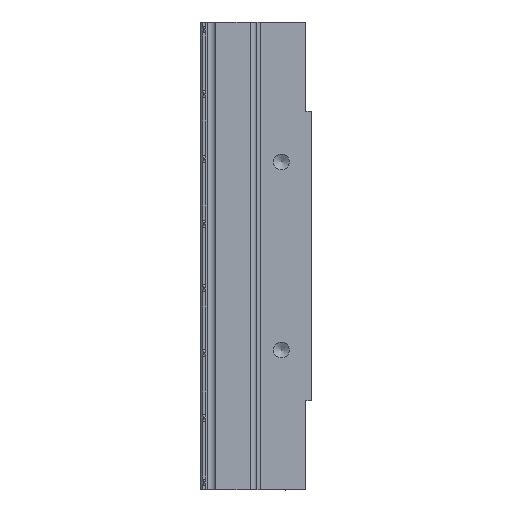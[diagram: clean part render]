
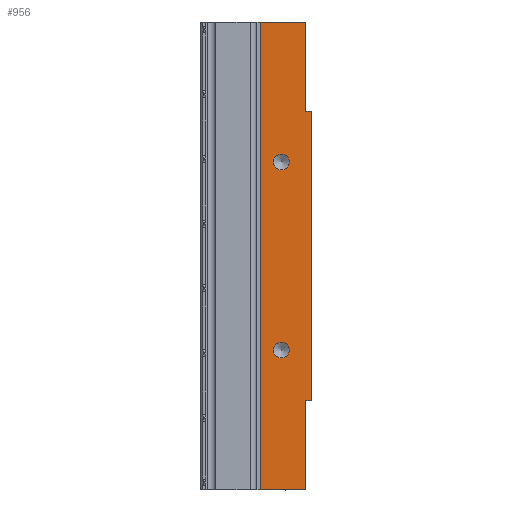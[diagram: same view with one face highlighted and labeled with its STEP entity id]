
A CAD part, left-side view. The second image highlights one B-rep face of the part: STEP entity #956.
In plain terms, the highlighted planar face has unit normal (-1, 0, 0) as drawn and (1, 0, 0) by its records, which use the part's own axes.
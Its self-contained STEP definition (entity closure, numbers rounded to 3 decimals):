
#394 = EDGE_CURVE ( 'NONE', #12763, #1095, #4269, .T. ) ;
#715 = VECTOR ( 'NONE', #10252, 1000. ) ;
#794 = FACE_OUTER_BOUND ( 'NONE', #28272, .T. ) ;
#939 = DIRECTION ( 'NONE',  ( 0., 1., 0. ) ) ;
#956 = ADVANCED_FACE ( 'NONE', ( #794, #13900, #9269 ), #24647, .T. ) ;
#1095 = VERTEX_POINT ( 'NONE', #19249 ) ;
#1119 = DIRECTION ( 'NONE',  ( 0., 1., 0. ) ) ;
#1166 = CIRCLE ( 'NONE', #21152, 2.1 ) ;
#1197 = EDGE_CURVE ( 'NONE', #26468, #12763, #25937, .T. ) ;
#1244 = VERTEX_POINT ( 'NONE', #21867 ) ;
#1355 = CARTESIAN_POINT ( 'NONE',  ( 40., 0.03, 62.2 ) ) ;
#1747 = DIRECTION ( 'NONE',  ( 1., 0., 0. ) ) ;
#1789 = VERTEX_POINT ( 'NONE', #10248 ) ;
#1991 = VECTOR ( 'NONE', #939, 1000. ) ;
#2725 = ORIENTED_EDGE ( 'NONE', *, *, #8711, .T. ) ;
#3532 = VECTOR ( 'NONE', #27964, 1000. ) ;
#3553 = CARTESIAN_POINT ( 'NONE',  ( 40., 6.5, 22.9 ) ) ;
#3616 = VECTOR ( 'NONE', #13186, 1000. ) ;
#4269 = LINE ( 'NONE', #19831, #11413 ) ;
#4748 = CARTESIAN_POINT ( 'NONE',  ( 40., 0., 0. ) ) ;
#5345 = VERTEX_POINT ( 'NONE', #13474 ) ;
#5380 = ORIENTED_EDGE ( 'NONE', *, *, #1197, .T. ) ;
#5430 = VERTEX_POINT ( 'NONE', #10861 ) ;
#5471 = LINE ( 'NONE', #8621, #1991 ) ;
#5704 = ORIENTED_EDGE ( 'NONE', *, *, #16606, .F. ) ;
#6338 = LINE ( 'NONE', #19263, #8286 ) ;
#6966 = ORIENTED_EDGE ( 'NONE', *, *, #10470, .F. ) ;
#7647 = CARTESIAN_POINT ( 'NONE',  ( 40., 6.5, -25. ) ) ;
#7752 = ORIENTED_EDGE ( 'NONE', *, *, #12135, .T. ) ;
#7955 = CARTESIAN_POINT ( 'NONE',  ( 40., 12., -62.2 ) ) ;
#8286 = VECTOR ( 'NONE', #8816, 1000. ) ;
#8561 = CARTESIAN_POINT ( 'NONE',  ( 40., -1.5, 43.25 ) ) ;
#8621 = CARTESIAN_POINT ( 'NONE',  ( 40., 28., -62.2 ) ) ;
#8711 = EDGE_CURVE ( 'NONE', #1244, #5345, #15034, .T. ) ;
#8816 = DIRECTION ( 'NONE',  ( 0., -1., 0. ) ) ;
#9269 = FACE_BOUND ( 'NONE', #17858, .T. ) ;
#10248 = CARTESIAN_POINT ( 'NONE',  ( 40., 6.5, -27.1 ) ) ;
#10252 = DIRECTION ( 'NONE',  ( 0., 0., 1. ) ) ;
#10470 = EDGE_CURVE ( 'NONE', #1244, #5430, #24222, .T. ) ;
#10535 = LINE ( 'NONE', #19398, #715 ) ;
#10668 = EDGE_CURVE ( 'NONE', #1095, #5430, #6338, .T. ) ;
#10861 = CARTESIAN_POINT ( 'NONE',  ( 40., -1.5, 38.5 ) ) ;
#11413 = VECTOR ( 'NONE', #21575, 1000. ) ;
#11594 = VERTEX_POINT ( 'NONE', #14758 ) ;
#11876 = VECTOR ( 'NONE', #1119, 1000. ) ;
#12135 = EDGE_CURVE ( 'NONE', #5345, #11594, #14109, .T. ) ;
#12386 = CARTESIAN_POINT ( 'NONE',  ( 40., 6.5, 25. ) ) ;
#12700 = ORIENTED_EDGE ( 'NONE', *, *, #28042, .T. ) ;
#12763 = VERTEX_POINT ( 'NONE', #15180 ) ;
#13186 = DIRECTION ( 'NONE',  ( 0., 0., 1. ) ) ;
#13474 = CARTESIAN_POINT ( 'NONE',  ( 40., 0., -38.5 ) ) ;
#13644 = DIRECTION ( 'NONE',  ( 0., 0., -1. ) ) ;
#13900 = FACE_BOUND ( 'NONE', #16924, .T. ) ;
#14109 = LINE ( 'NONE', #14251, #27450 ) ;
#14251 = CARTESIAN_POINT ( 'NONE',  ( 40., 0., -38.5 ) ) ;
#14758 = CARTESIAN_POINT ( 'NONE',  ( 40., 0., -62.2 ) ) ;
#15034 = LINE ( 'NONE', #25265, #11876 ) ;
#15180 = CARTESIAN_POINT ( 'NONE',  ( 40., 0., 62.2 ) ) ;
#15677 = DIRECTION ( 'NONE',  ( 1., 0., 0. ) ) ;
#16280 = DIRECTION ( 'NONE',  ( 0., 0., -1. ) ) ;
#16606 = EDGE_CURVE ( 'NONE', #1789, #1789, #1166, .T. ) ;
#16692 = EDGE_CURVE ( 'NONE', #20031, #26468, #10535, .T. ) ;
#16924 = EDGE_LOOP ( 'NONE', ( #5704 ) ) ;
#17858 = EDGE_LOOP ( 'NONE', ( #27991 ) ) ;
#18074 = CARTESIAN_POINT ( 'NONE',  ( 40., 12., 62.2 ) ) ;
#19249 = CARTESIAN_POINT ( 'NONE',  ( 40., 0., 38.5 ) ) ;
#19263 = CARTESIAN_POINT ( 'NONE',  ( 40., 0., 38.5 ) ) ;
#19398 = CARTESIAN_POINT ( 'NONE',  ( 40., 12., -62.2 ) ) ;
#19831 = CARTESIAN_POINT ( 'NONE',  ( 40., 0., 54.2 ) ) ;
#20031 = VERTEX_POINT ( 'NONE', #7955 ) ;
#20155 = DIRECTION ( 'NONE',  ( 0., 0., -1. ) ) ;
#21152 = AXIS2_PLACEMENT_3D ( 'NONE', #7647, #15677, #13644 ) ;
#21248 = DIRECTION ( 'NONE',  ( 0., 0., -1. ) ) ;
#21575 = DIRECTION ( 'NONE',  ( 0., 0., -1. ) ) ;
#21608 = ORIENTED_EDGE ( 'NONE', *, *, #394, .T. ) ;
#21867 = CARTESIAN_POINT ( 'NONE',  ( 40., -1.5, -38.5 ) ) ;
#22421 = EDGE_CURVE ( 'NONE', #27824, #27824, #26559, .T. ) ;
#22756 = DIRECTION ( 'NONE',  ( 1., 0., 0. ) ) ;
#23782 = AXIS2_PLACEMENT_3D ( 'NONE', #12386, #1747, #21248 ) ;
#24153 = ORIENTED_EDGE ( 'NONE', *, *, #10668, .T. ) ;
#24222 = LINE ( 'NONE', #8561, #3616 ) ;
#24647 = PLANE ( 'NONE',  #25318 ) ;
#25265 = CARTESIAN_POINT ( 'NONE',  ( 40., -13., -38.5 ) ) ;
#25318 = AXIS2_PLACEMENT_3D ( 'NONE', #4748, #22756, #20155 ) ;
#25606 = ORIENTED_EDGE ( 'NONE', *, *, #16692, .T. ) ;
#25937 = LINE ( 'NONE', #1355, #3532 ) ;
#26468 = VERTEX_POINT ( 'NONE', #18074 ) ;
#26559 = CIRCLE ( 'NONE', #23782, 2.1 ) ;
#27450 = VECTOR ( 'NONE', #16280, 1000. ) ;
#27824 = VERTEX_POINT ( 'NONE', #3553 ) ;
#27964 = DIRECTION ( 'NONE',  ( 0., -1., 0. ) ) ;
#27991 = ORIENTED_EDGE ( 'NONE', *, *, #22421, .F. ) ;
#28042 = EDGE_CURVE ( 'NONE', #11594, #20031, #5471, .T. ) ;
#28272 = EDGE_LOOP ( 'NONE', ( #7752, #12700, #25606, #5380, #21608, #24153, #6966, #2725 ) ) ;
